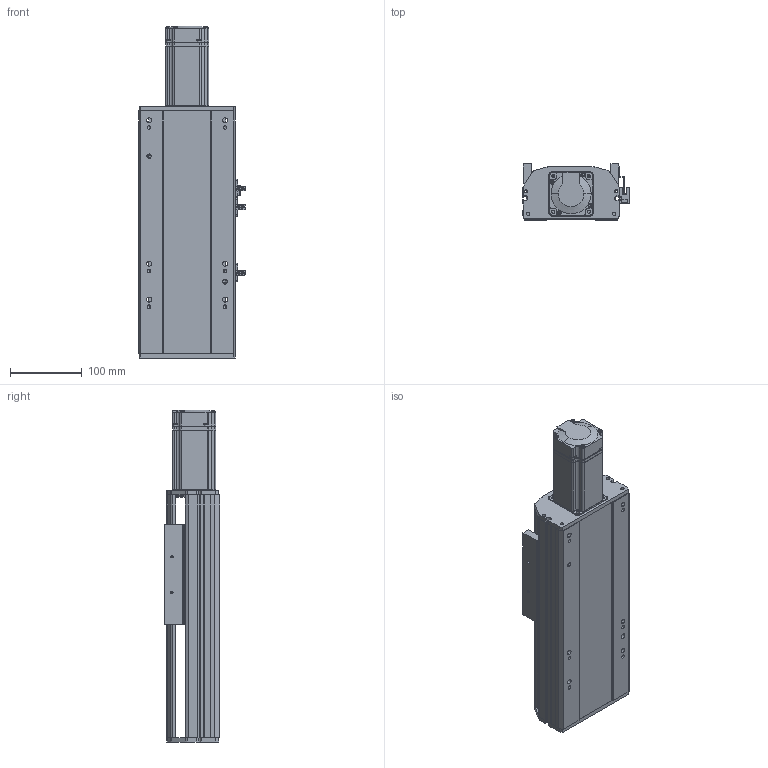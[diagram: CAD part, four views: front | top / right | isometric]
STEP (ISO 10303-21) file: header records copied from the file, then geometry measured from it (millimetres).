
FILE_DESCRIPTION (( 'STEP AP214' ), '1' );
FILE_NAME ('QTH14-100-BC-P40.STEP', '2021-10-17T02:02:57', ( '' ), ( '' ), 'SwSTEP 2.0', 'SolidWorks 2020', '' );
FILE_SCHEMA (( 'AUTOMOTIVE_DESIGN' ));
Length unit declared in the file: millimetre
Products named in the file (6): 葩璃 pm-t65-672^QTH14-BC-P40; 葩璃 QTH14-BC-001 菁釱MZ-135-01^QTH14-BC-P40; 葩璃 QTH14-BC-002 奻裔MZ-135-02^QTH14-BC-P40; 葩璃 侂狟400W^QTH14-BC-P40; 葩璃 QTH14-BC-005 賑釱MZ-135-03 ^QTH14-BC-P40_SFA16; QTH14-100-BC-P40
Assembly tree (7 placements, depth 2):
  QTH14-100-BC-P40
    葩璃 QTH14-BC-001 菁釱MZ-135-01^QTH14-BC-P40
    葩璃 QTH14-BC-002 奻裔MZ-135-02^QTH14-BC-P40
    葩璃 QTH14-BC-005 賑釱MZ-135-03 ^QTH14-BC-P40_SFA16
    葩璃 pm-t65-672^QTH14-BC-P40  x3
    葩璃 侂狟400W^QTH14-BC-P40
Bounding box: 148.7 x 78 x 463 mm (x, y, z)
Volume: 2999679.6 mm3; surface area: 387224.4 mm2
Topology: 11 solids, 11 shells, 1202 faces, 3217 edges, 2088 vertices
Faces by surface type: plane 707, cylinder 397, cone 80, bspline 18
Entity records: 31714 total; most frequent: CARTESIAN_POINT 5703, DIRECTION 5298, ORIENTED_EDGE 5066, EDGE_CURVE 2533, AXIS2_PLACEMENT_3D 1815, LINE 1668, VECTOR 1668, VERTEX_POINT 1664
